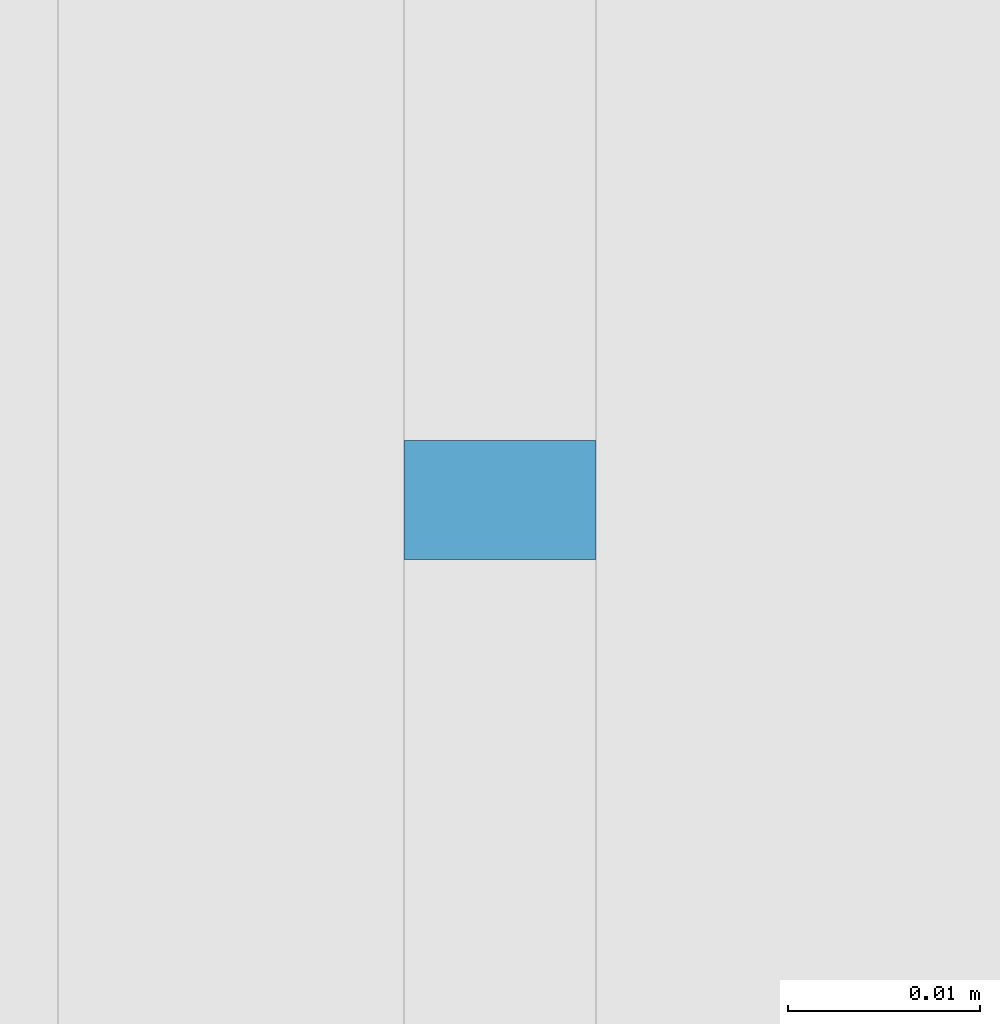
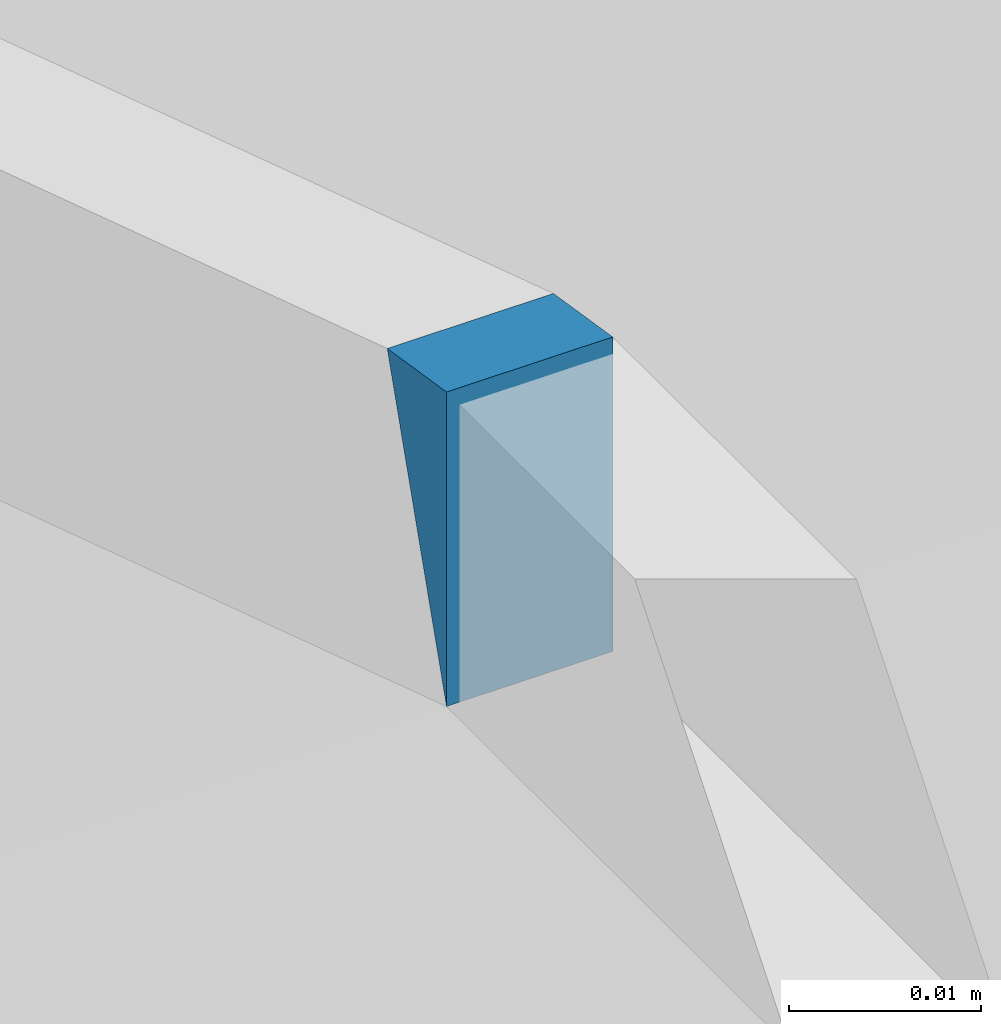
# One storey, part 355 of 583: 1 slab.
"""IFC2X3 building model written with IfcOpenShell, lengths in metres."""

from ifc_helpers import new_model, entity, si_unit, converted_unit, derived_unit, money_unit, direction, frame, origin_with_axes, place, context, subcontext, project, spatial, faceted_brep, material, type_object, element, save


model = new_model("IFC2X3")

# Units and contexts
model_context = context("Model", 3, precision=1e-05, world=origin_with_axes(), true_north=direction((0.0, 1.0)))
body_context = subcontext(model_context, "Body", "Model", "MODEL_VIEW", scale=1.0)
ifc_project = project(units=[si_unit("LENGTHUNIT", "METRE"), si_unit("AREAUNIT", "SQUARE_METRE"), si_unit("VOLUMEUNIT", "CUBIC_METRE"), si_unit("ABSORBEDDOSEUNIT", "GRAY"), si_unit("AMOUNTOFSUBSTANCEUNIT", "MOLE"), si_unit("DOSEEQUIVALENTUNIT", "SIEVERT"), si_unit("ELECTRICCAPACITANCEUNIT", "FARAD"), si_unit("ELECTRICCHARGEUNIT", "COULOMB"), si_unit("ELECTRICCONDUCTANCEUNIT", "SIEMENS"), si_unit("ELECTRICCURRENTUNIT", "AMPERE"), si_unit("ELECTRICRESISTANCEUNIT", "OHM"), si_unit("ELECTRICVOLTAGEUNIT", "VOLT"), si_unit("ENERGYUNIT", "JOULE"), si_unit("FORCEUNIT", "NEWTON"), si_unit("FREQUENCYUNIT", "HERTZ"), si_unit("ILLUMINANCEUNIT", "LUX"), si_unit("INDUCTANCEUNIT", "HENRY"), si_unit("LUMINOUSFLUXUNIT", "LUMEN"), si_unit("LUMINOUSINTENSITYUNIT", "CANDELA"), si_unit("MAGNETICFLUXDENSITYUNIT", "TESLA"), si_unit("MAGNETICFLUXUNIT", "WEBER"), si_unit("MASSUNIT", "GRAM"), converted_unit("PLANEANGLEUNIT", "degree", entity("IfcReal", 0.0174532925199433), si_unit("PLANEANGLEUNIT", "RADIAN"), dimensions=[0, 0, 0, 0, 0, 0, 0]), si_unit("POWERUNIT", "WATT"), si_unit("PRESSUREUNIT", "PASCAL"), si_unit("RADIOACTIVITYUNIT", "BECQUEREL"), si_unit("SOLIDANGLEUNIT", "STERADIAN"), si_unit("THERMODYNAMICTEMPERATUREUNIT", "KELVIN"), si_unit("TIMEUNIT", "SECOND"), derived_unit("ACCELERATIONUNIT", [(si_unit("LENGTHUNIT", "METRE"), 1), (si_unit("TIMEUNIT", "SECOND"), -2)]), derived_unit("ANGULARVELOCITYUNIT", [(converted_unit("PLANEANGLEUNIT", "degree", entity("IfcReal", 0.0174532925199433), si_unit("PLANEANGLEUNIT", "RADIAN"), dimensions=[0, 0, 0, 0, 0, 0, 0]), 1), (si_unit("TIMEUNIT", "SECOND"), -1)]), derived_unit("CURVATUREUNIT", [(converted_unit("PLANEANGLEUNIT", "degree", entity("IfcReal", 0.0174532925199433), si_unit("PLANEANGLEUNIT", "RADIAN"), dimensions=[0, 0, 0, 0, 0, 0, 0]), 1), (si_unit("LENGTHUNIT", "METRE"), -1)]), derived_unit("DYNAMICVISCOSITYUNIT", [(si_unit("PRESSUREUNIT", "PASCAL"), 1), (si_unit("TIMEUNIT", "SECOND"), 1)]), derived_unit("HEATFLUXDENSITYUNIT", [(si_unit("POWERUNIT", "WATT"), 1), (si_unit("LENGTHUNIT", "METRE"), -2)]), derived_unit("HEATINGVALUEUNIT", [(si_unit("ENERGYUNIT", "JOULE"), 1), (si_unit("MASSUNIT", "GRAM"), -1)]), derived_unit("INTEGERCOUNTRATEUNIT", [(si_unit("TIMEUNIT", "SECOND"), -1)]), derived_unit("IONCONCENTRATIONUNIT", [(si_unit("MASSUNIT", "GRAM"), 1), (si_unit("VOLUMEUNIT", "CUBIC_METRE"), -1)]), derived_unit("ISOTHERMALMOISTURECAPACITYUNIT", [(si_unit("VOLUMEUNIT", "CUBIC_METRE"), 1), (si_unit("MASSUNIT", "GRAM"), -1)]), derived_unit("KINEMATICVISCOSITYUNIT", [(si_unit("AREAUNIT", "SQUARE_METRE"), 1), (si_unit("TIMEUNIT", "SECOND"), -1)]), derived_unit("LINEARFORCEUNIT", [(si_unit("FORCEUNIT", "NEWTON"), 1), (si_unit("LENGTHUNIT", "METRE"), -1)]), derived_unit("LINEARMOMENTUNIT", [(si_unit("FORCEUNIT", "NEWTON"), 1), (si_unit("LENGTHUNIT", "METRE"), -1)]), derived_unit("LINEARSTIFFNESSUNIT", [(si_unit("FORCEUNIT", "NEWTON"), 1), (si_unit("LENGTHUNIT", "METRE"), -1)]), derived_unit("LINEARVELOCITYUNIT", [(si_unit("LENGTHUNIT", "METRE"), 1), (si_unit("TIMEUNIT", "SECOND"), -1)]), derived_unit("LUMINOUSINTENSITYDISTRIBUTIONUNIT", [(si_unit("LUMINOUSINTENSITYUNIT", "CANDELA"), 1), (si_unit("LUMINOUSFLUXUNIT", "LUMEN"), -1)]), derived_unit("MASSDENSITYUNIT", [(si_unit("MASSUNIT", "GRAM"), 1), (si_unit("VOLUMEUNIT", "CUBIC_METRE"), -1)]), derived_unit("MASSFLOWRATEUNIT", [(si_unit("MASSUNIT", "GRAM"), 1), (si_unit("TIMEUNIT", "SECOND"), -1)]), derived_unit("MASSPERLENGTHUNIT", [(si_unit("MASSUNIT", "GRAM"), 1), (si_unit("LENGTHUNIT", "METRE"), -1)]), derived_unit("MODULUSOFELASTICITYUNIT", [(si_unit("FORCEUNIT", "NEWTON"), 1), (si_unit("AREAUNIT", "SQUARE_METRE"), -1)]), derived_unit("MODULUSOFLINEARSUBGRADEREACTIONUNIT", [(si_unit("FORCEUNIT", "NEWTON"), 1), (si_unit("LENGTHUNIT", "METRE"), -2)]), derived_unit("MODULUSOFROTATIONALSUBGRADEREACTIONUNIT", [(si_unit("FORCEUNIT", "NEWTON"), 1), (si_unit("LENGTHUNIT", "METRE"), 1)]), derived_unit("MODULUSOFSUBGRADEREACTIONUNIT", [(si_unit("FORCEUNIT", "NEWTON"), 1), (si_unit("VOLUMEUNIT", "CUBIC_METRE"), -1)]), derived_unit("MOISTUREDIFFUSIVITYUNIT", [(si_unit("VOLUMEUNIT", "CUBIC_METRE"), 1), (si_unit("TIMEUNIT", "SECOND"), -1)]), derived_unit("MOLECULARWEIGHTUNIT", [(si_unit("MASSUNIT", "GRAM"), 1), (si_unit("AMOUNTOFSUBSTANCEUNIT", "MOLE"), -1)]), derived_unit("PLANARFORCEUNIT", [(si_unit("FORCEUNIT", "NEWTON"), 1), (si_unit("LENGTHUNIT", "METRE"), -2)]), derived_unit("ROTATIONALFREQUENCYUNIT", [(si_unit("TIMEUNIT", "SECOND"), -1)]), derived_unit("ROTATIONALMASSUNIT", [(si_unit("MASSUNIT", "GRAM"), 1), (si_unit("LENGTHUNIT", "METRE"), 2)]), derived_unit("ROTATIONALSTIFFNESSUNIT", [(si_unit("FORCEUNIT", "NEWTON"), 1), (si_unit("LENGTHUNIT", "METRE"), 1), (converted_unit("PLANEANGLEUNIT", "degree", entity("IfcReal", 0.0174532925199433), si_unit("PLANEANGLEUNIT", "RADIAN"), dimensions=[0, 0, 0, 0, 0, 0, 0]), -1)]), derived_unit("SECTIONAREAINTEGRALUNIT", [(si_unit("LENGTHUNIT", "METRE"), 5)]), derived_unit("SECTIONMODULUSUNIT", [(si_unit("LENGTHUNIT", "METRE"), 3)]), derived_unit("SHEARMODULUSUNIT", [(si_unit("FORCEUNIT", "NEWTON"), 1), (si_unit("AREAUNIT", "SQUARE_METRE"), -1)]), derived_unit("SOUNDPOWERUNIT", [(si_unit("ENERGYUNIT", "JOULE"), 1), (si_unit("TIMEUNIT", "SECOND"), -1)]), derived_unit("SPECIFICHEATCAPACITYUNIT", [(si_unit("FORCEUNIT", "NEWTON"), 1), (si_unit("MASSUNIT", "GRAM"), -1), (si_unit("THERMODYNAMICTEMPERATUREUNIT", "KELVIN"), -1)]), derived_unit("TEMPERATUREGRADIENTUNIT", [(si_unit("THERMODYNAMICTEMPERATUREUNIT", "KELVIN"), 1), (si_unit("LENGTHUNIT", "METRE"), -1)]), derived_unit("THERMALADMITTANCEUNIT", [(si_unit("POWERUNIT", "WATT"), 1), (si_unit("AREAUNIT", "SQUARE_METRE"), -1), (si_unit("THERMODYNAMICTEMPERATUREUNIT", "KELVIN"), -1)]), derived_unit("THERMALCONDUCTANCEUNIT", [(si_unit("POWERUNIT", "WATT"), 1), (si_unit("LENGTHUNIT", "METRE"), -1), (si_unit("THERMODYNAMICTEMPERATUREUNIT", "KELVIN"), -1)]), derived_unit("THERMALEXPANSIONCOEFFICIENTUNIT", [(si_unit("THERMODYNAMICTEMPERATUREUNIT", "KELVIN"), -1)]), derived_unit("THERMALRESISTANCEUNIT", [(si_unit("AREAUNIT", "SQUARE_METRE"), 1), (si_unit("POWERUNIT", "WATT"), -1)]), derived_unit("THERMALTRANSMITTANCEUNIT", [(si_unit("POWERUNIT", "WATT"), 1), (si_unit("AREAUNIT", "SQUARE_METRE"), -1), (si_unit("THERMODYNAMICTEMPERATUREUNIT", "KELVIN"), -1)]), derived_unit("TORQUEUNIT", [(si_unit("FORCEUNIT", "NEWTON"), 1), (si_unit("LENGTHUNIT", "METRE"), 1)]), derived_unit("VAPORPERMEABILITYUNIT", [(si_unit("MASSUNIT", "GRAM"), 1), (si_unit("TIMEUNIT", "SECOND"), -1)]), derived_unit("VOLUMETRICFLOWRATEUNIT", [(si_unit("VOLUMEUNIT", "CUBIC_METRE"), 1), (si_unit("TIMEUNIT", "SECOND"), -1)]), derived_unit("WARPINGCONSTANTUNIT", [(si_unit("LENGTHUNIT", "METRE"), 6)]), derived_unit("WARPINGMOMENTUNIT", [(si_unit("FORCEUNIT", "NEWTON"), 1), (si_unit("LENGTHUNIT", "METRE"), 2)]), money_unit("GBP")], contexts=[model_context])

# Site, building, storey
site_placement = place(None, origin_with_axes())
site = spatial("IfcSite", under=ifc_project, at=site_placement, Name="Site", CompositionType="ELEMENT")
building_placement = place(site_placement, origin_with_axes())
building = spatial("IfcBuilding", under=site, at=building_placement, Name="Building01", CompositionType="ELEMENT")
storey_placement = place(building_placement, frame((0.0, 0.0, 20.78), z_axis=(0.0, 0.0, 1.0), x_axis=(1.0, 0.0, 0.0)))
storey = spatial("IfcBuildingStorey", under=building, at=storey_placement, Name="RL", CompositionType="ELEMENT", Elevation=20.78)

# Slab
ifc_material = material(Name="A_BSUK_Roofs")
slab_type = type_object("IfcSlabType", Name="A-FloorsSlabs A_BSUK_Slabs", PredefinedType="FLOOR")
slab_placement = place(storey_placement, frame((9.085953, 16.280608, 5.699021), z_axis=(0.0, 1.0, 0.0), x_axis=(1.0, 0.0, 0.0)))
element("IfcSlab", 1, at=slab_placement, inside=storey, type_object=slab_type, material=ifc_material, Name="A-FloorsSlabs A_BSUK_Slabs", ObjectType="A-FloorsSlabs A_BSUK_Slabs", context=body_context, shape_type="Brep", body=[
    faceted_brep([(0.0, 0.0, 0.0), (-0.01, 0.0, 0.0), (-0.01, -0.000979, -0.00618), (0.0, -0.000979, -0.00618), (-0.01, 0.019021, -0.00618), (0.0, 0.019021, -0.00618)], [[[0, 1, 2, 3]], [[3, 2, 4, 5]], [[5, 4, 1, 0]], [[1, 4, 2]], [[3, 5, 0]]]),
])

save(model, "model.ifc")
